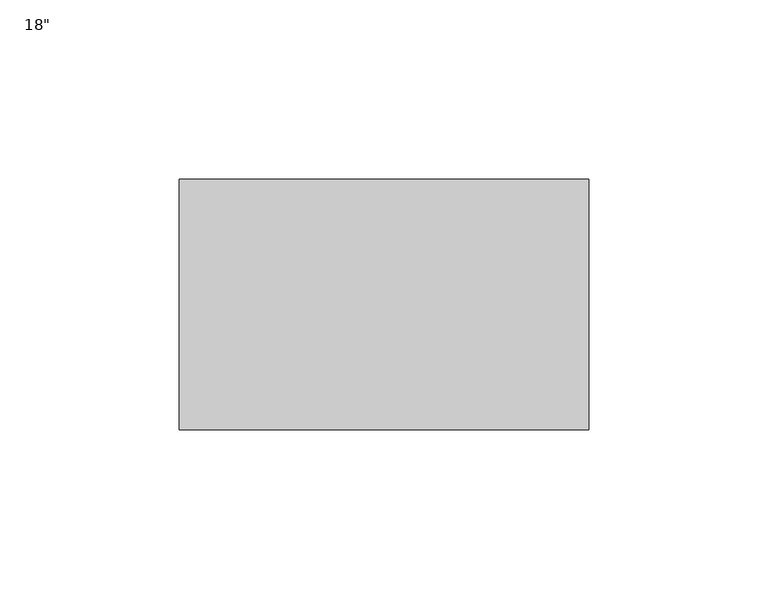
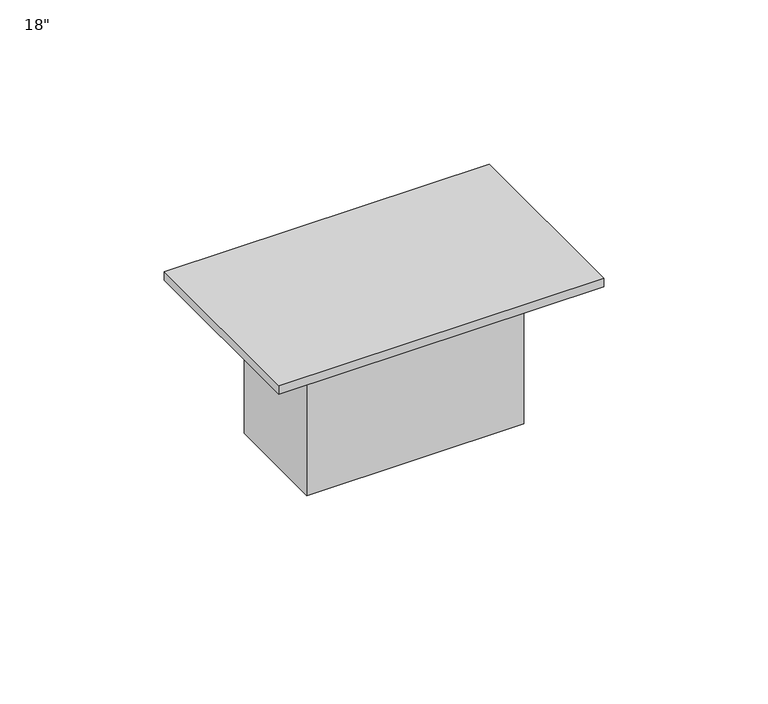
"""IFC4 building model written with IfcOpenShell, lengths in millimetres: proxy geometry."""

from ifc_helpers import new_model, si_unit, frame, origin, origin_with_axes, place, context, project, spatial, polyline, outline, extrude, source, transform, mapped, element, save


def proxy_1e2a9226(model_context):
    return source(origin(), model_context, "Body", "SweptSolid", [
        extrude(outline(polyline([(-38.1, 476.25), (38.1, 476.25), (38.1, 438.15), (-38.1, 438.15), (-38.1, 476.25)])), frame((0.0, 0.0, -53.975), z_axis=(0.0, 0.0, 1.0), x_axis=(1.0, 0.0, 0.0)), (0.0, 0.0, 1.0), 53.975),
        extrude(outline(polyline([(-57.15, 492.125), (57.15, 492.125), (57.15, 422.275), (-57.15, 422.275), (-57.15, 492.125)])), origin_with_axes(), (0.0, 0.0, 1.0), 3.175),
    ])


if __name__ == "__main__":
    model = new_model("IFC4")
    model_context = context("Model", 3, world=origin())
    ifc_project = project(units=[si_unit("LENGTHUNIT", "METRE", prefix="MILLI")], contexts=[model_context])
    site = spatial("IfcSite", under=ifc_project)
    building = spatial("IfcBuilding", under=site)
    placement = place(None, origin())
    proxy_shape = proxy_1e2a9226(model_context)
    element("IfcBuildingElementProxy", 1, Name="BA_EF - Receptacle Duplex Wall : 18\"", ObjectType="BA_EF - Receptacle Duplex Wall : 18\"", at=placement, inside=building, context=model_context, shape_type="MappedRepresentation", body=[
        mapped(proxy_shape, transform((0.0, 0.0, 0.0), x_axis=(1.0, 0.0, 0.0), y_axis=(0.0, 1.0, 0.0), z_axis=(0.0, 0.0, 1.0))),
    ])
    save(model, "model.ifc")
